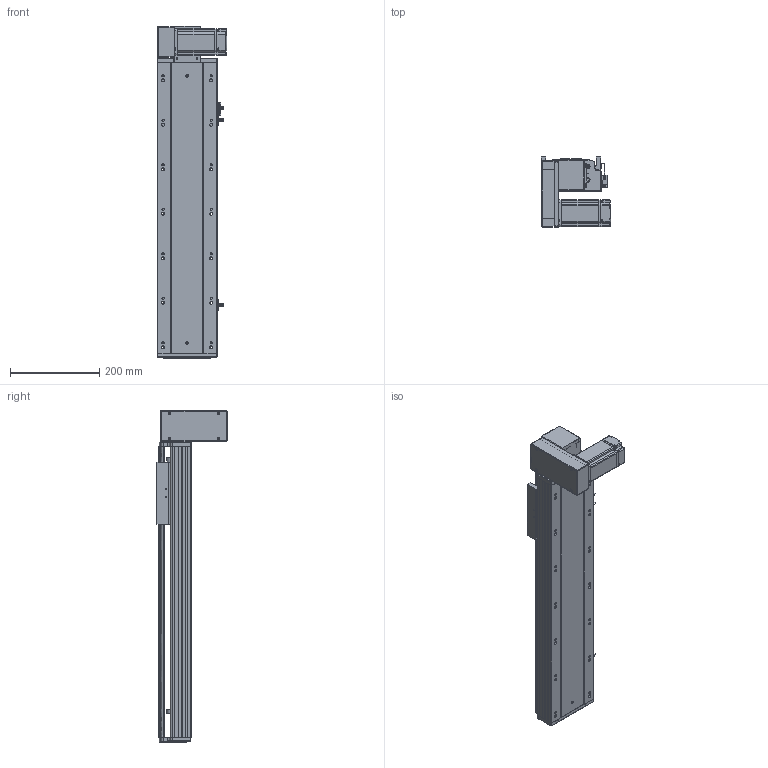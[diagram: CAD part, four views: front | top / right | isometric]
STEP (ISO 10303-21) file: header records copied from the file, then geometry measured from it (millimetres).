
FILE_DESCRIPTION (( 'STEP AP203' ), '1' );
FILE_NAME ('RY140-T-300-DL.SLDASM_400.step', '2021-03-01T06:05:34', ( '盈信电脑' ), ( '东莞市道滘镇水果街19号' ), 'SwSTEP 2.0', 'SolidWorks 2012', '' );
FILE_SCHEMA (( 'CONFIG_CONTROL_DESIGN' ));
Products named in the file (18): RY140-T-300-DL.SLDASM_400; RY140-T萇儂欶; 滅袉蝶18-10; RY140-T翋肮謫裔啣; 侂狟400W侜督萇儂; 15; RY120-T蹟翐M4; RY120-T主同步轮轴承压盖; RY140-T萇儂假蚾啣; RY140-T翋肮祭謫盓傅釱; RY120-T肮祭湍揤踡輸1; RY140綴裔啣; RY120外置感应片(140共用）; RY120-T肮祭湍揤踡輸2; 覜茼ん672; RY140-T-300-DL倰第奻裔啣_400; RY140肮祭謫臏賑輸; RY140-T-300-DL倰第菁釱_400
Assembly tree (23 placements, depth 3):
  RY140-T-300-DL.SLDASM_400
    RY140-T-300-DL倰第菁釱_400
    RY140肮祭謫臏賑輸
    RY140-T-300-DL倰第奻裔啣_400
    RY140綴裔啣
    覜茼ん672  x3
    RY120外置感应片(140共用）
    RY120-T肮祭湍揤踡輸2
    RY120-T肮祭湍揤踡輸1
    RY140-T翋肮祭謫盓傅釱
    RY140-T萇儂假蚾啣
    侂狟400W侜督萇儂
      15
    RY120-T主同步轮轴承压盖
    RY120-T蹟翐M4  x4
    RY140-T萇儂欶
    滅袉蝶18-10  x2
    RY140-T翋肮謫裔啣
Bounding box: 157 x 158.5 x 746 mm (x, y, z)
Volume: 2558130.2 mm3; surface area: 939061.1 mm2
Topology: 22 solids, 22 shells, 2598 faces, 7122 edges, 4598 vertices
Faces by surface type: plane 1389, cylinder 931, cone 178, bspline 100
Entity records: 82512 total; most frequent: CARTESIAN_POINT 20245, ORIENTED_EDGE 12812, DIRECTION 12108, EDGE_CURVE 6406, VERTEX_POINT 4197, LINE 4130, VECTOR 4130, AXIS2_PLACEMENT_3D 3989
